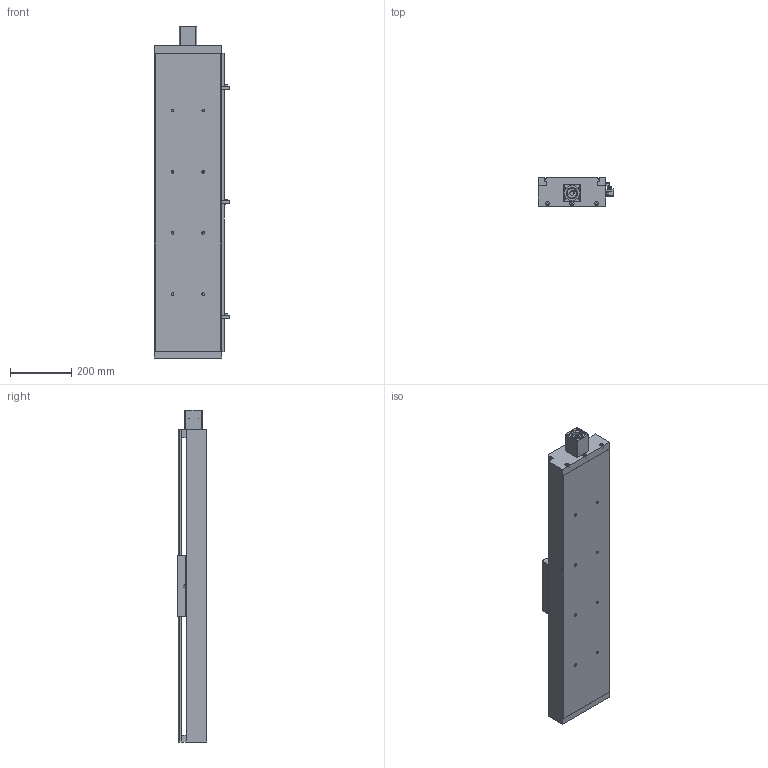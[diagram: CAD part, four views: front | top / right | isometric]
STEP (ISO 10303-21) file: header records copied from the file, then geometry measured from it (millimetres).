
FILE_DESCRIPTION((''),'2;1');
FILE_NAME('E:\libraries\UIA actuator library 2016\standard actuator\UIA220R20NDC\UIA220R20NDC ball screw 20\UIA220R20NDC-_ _ _-R20_ _ stp file, 01May16\UIA220R20NDC-750-R20_ _.stp','2016-04-29T15:28:53',('h029'),(''),'Autodesk Inventor 11','Autodesk Inventor 11','');
FILE_SCHEMA(('AUTOMOTIVE_DESIGN { 1 0 10303 214 1 1 1 1 }'));
Length unit declared in the file: millimetre
Products named in the file (10): UIA220R20NDC-750-R20_ _; UIA220R20NDC-body; 41-100 0010 CARRIAGE; sensor rail; Sensor Switch; motor mount M60; SOH-32C; SOH-32C-3; SOH-32C-1; SOH-32C-2
Assembly tree (9 placements, depth 3):
  UIA220R20NDC-750-R20_ _
    UIA220R20NDC-body
    41-100 0010 CARRIAGE
    sensor rail
    Sensor Switch
    motor mount M60
    SOH-32C
      SOH-32C-3
      SOH-32C-1
      SOH-32C-2
Bounding box: 246.5 x 96 x 1086 mm (x, y, z)
Volume: 6376462.9 mm3; surface area: 1511326.6 mm2
Topology: 8 solids, 8 shells, 512 faces, 1366 edges, 898 vertices
Faces by surface type: plane 341, bspline 121, cylinder 48, cone 2
Full cylindrical faces by diameter (mm): 3.242 x2, 4.5 x2, 7 x4, 7.5 x2, 12 x2, 13.8 x3, 14 x4, 15 x1, 32 x3, 37 x1, 46.9 x1, 47.1 x1
Entity records: 16726 total; most frequent: CARTESIAN_POINT 4732, ORIENTED_EDGE 2330, DIRECTION 2281, EDGE_CURVE 1165, VECTOR 849, LINE 849, VERTEX_POINT 824, EDGE_LOOP 743
